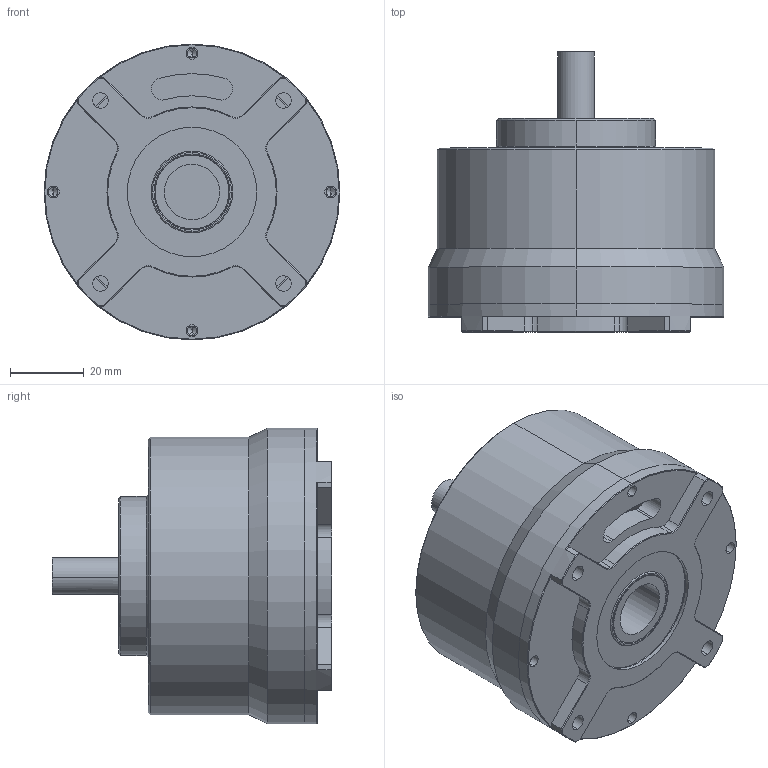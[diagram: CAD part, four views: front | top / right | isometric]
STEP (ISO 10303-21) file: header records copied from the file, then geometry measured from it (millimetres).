
FILE_DESCRIPTION (( 'STEP AP214' ), '1' );
FILE_NAME ('7020蚾饜尨砩芞.STEP', '2025-03-25T06:44:14', ( '' ), ( '' ), 'SwSTEP 2.0', 'SolidWorks 2022', '' );
FILE_SCHEMA (( 'AUTOMOTIVE_DESIGN' ));
Length unit declared in the file: millimetre
Products named in the file (6): 7020扭力测试工装后盖; 转子; 7020转轴; 7020扭力测试工装前盖; 轴承37x20x9-C0105000095; 7020装配示意图
Assembly tree (6 placements, depth 3):
  7020装配示意图
    7020扭力测试工装前盖
    轴承37x20x9-C0105000095  x2
    转子
      7020转轴
    7020扭力测试工装后盖
Bounding box: 80 x 75.7 x 80 mm (x, y, z)
Volume: 121399 mm3; surface area: 57092.4 mm2
Topology: 5 solids, 5 shells, 240 faces, 569 edges, 350 vertices
Faces by surface type: cylinder 95, plane 69, cone 44, torus 32
Entity records: 6739 total; most frequent: DIRECTION 1209, CARTESIAN_POINT 1122, ORIENTED_EDGE 1014, EDGE_CURVE 507, AXIS2_PLACEMENT_3D 495, VERTEX_POINT 318, CIRCLE 271, EDGE_LOOP 255
